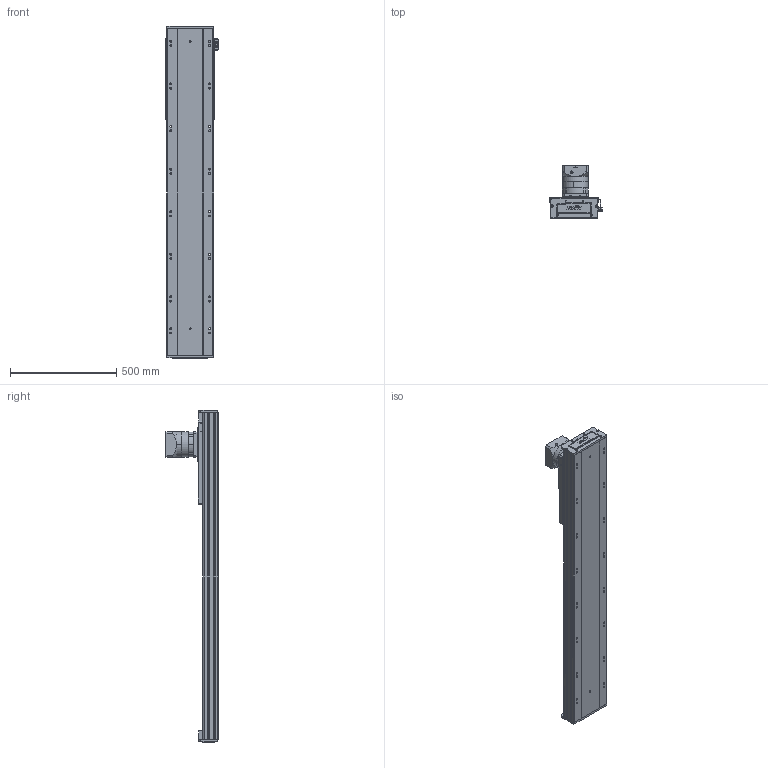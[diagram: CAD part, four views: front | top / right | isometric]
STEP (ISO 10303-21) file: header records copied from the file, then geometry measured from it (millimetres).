
FILE_DESCRIPTION (( 'STEP AP203' ), '1' );
FILE_NAME ('RY220-C-300-UK.SLDASM_1050.step', '2022-08-01T05:59:03', ( '' ), ( '' ), 'SwSTEP 2.0', 'SolidWorks 2016', '' );
FILE_SCHEMA (( 'CONFIG_CONTROL_DESIGN' ));
Length unit declared in the file: millimetre
Products named in the file (10): RY220喘沭綴裔啣; RY220喘沭俋离覜茼え; 覜茼ん674; RY140直线电机感应器674光电安装座; RY220喘沭賑輸; RY220-C-300-UK.SLDASM_1050; 滅袉蝶輸ㄗG412隅秶ㄘ; RY220-齿条模组电机安装板; PF115L1-S2-22-58-110-145-M8; RY220菁釱MK-300_1050
Assembly tree (12 placements, depth 2):
  RY220-C-300-UK.SLDASM_1050
    RY220菁釱MK-300_1050
    RY220喘沭賑輸
    RY220-齿条模组电机安装板
    PF115L1-S2-22-58-110-145-M8
    RY220喘沭綴裔啣  x2
    滅袉蝶輸ㄗG412隅秶ㄘ  x2
    RY140直线电机感应器674光电安装座
    覜茼ん674  x2
    RY220喘沭俋离覜茼え
Bounding box: 247 x 244.5 x 1559 mm (x, y, z)
Volume: 12664361.7 mm3; surface area: 2488976.3 mm2
Topology: 18 solids, 26 shells, 1982 faces, 5309 edges, 3379 vertices
Faces by surface type: cylinder 903, plane 751, cone 166, bspline 162
Entity records: 62597 total; most frequent: CARTESIAN_POINT 17233, DIRECTION 9251, ORIENTED_EDGE 9186, EDGE_CURVE 4593, AXIS2_PLACEMENT_3D 3505, VERTEX_POINT 3005, EDGE_LOOP 2242, LINE 2241
